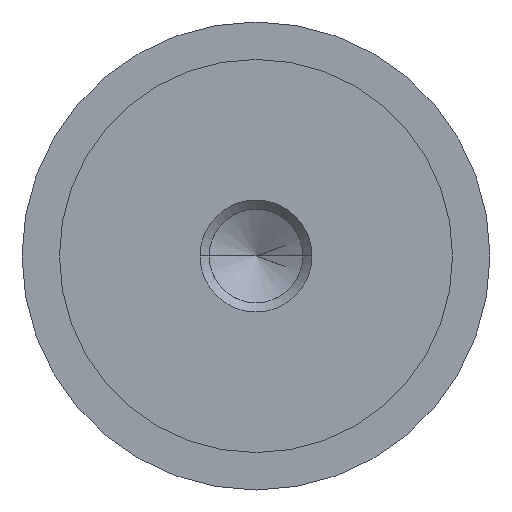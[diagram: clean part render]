
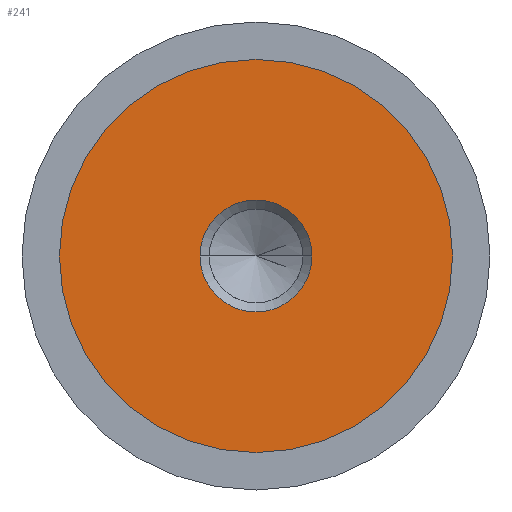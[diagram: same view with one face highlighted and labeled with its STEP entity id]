
A CAD part, left-side view. The second image highlights one B-rep face of the part: STEP entity #241.
In plain terms, the highlighted planar face has unit normal (-1, 0, 0).
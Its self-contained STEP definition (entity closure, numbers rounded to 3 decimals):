
#2 = AXIS2_PLACEMENT_3D ( 'NONE', #133, #615, #196 ) ;
#10 = VERTEX_POINT ( 'NONE', #511 ) ;
#41 = CARTESIAN_POINT ( 'NONE',  ( -9.99, 0., 0. ) ) ;
#91 = EDGE_CURVE ( 'NONE', #371, #246, #212, .T. ) ;
#108 = DIRECTION ( 'NONE',  ( 0., 0., 1. ) ) ;
#128 = CARTESIAN_POINT ( 'NONE',  ( -9.99, 0., 10.5 ) ) ;
#133 = CARTESIAN_POINT ( 'NONE',  ( -9.99, 0., 0. ) ) ;
#135 = FACE_BOUND ( 'NONE', #523, .T. ) ;
#196 = DIRECTION ( 'NONE',  ( 0., 0., -1. ) ) ;
#212 = CIRCLE ( 'NONE', #312, 10.5 ) ;
#223 = CIRCLE ( 'NONE', #659, 2.99 ) ;
#227 = EDGE_CURVE ( 'NONE', #362, #10, #409, .T. ) ;
#232 = CARTESIAN_POINT ( 'NONE',  ( -9.99, -2.99, 0. ) ) ;
#241 = ADVANCED_FACE ( 'NONE', ( #135, #566 ), #376, .F. ) ;
#246 = VERTEX_POINT ( 'NONE', #128 ) ;
#252 = ORIENTED_EDGE ( 'NONE', *, *, #91, .T. ) ;
#303 = CARTESIAN_POINT ( 'NONE',  ( -9.99, 0., 0. ) ) ;
#312 = AXIS2_PLACEMENT_3D ( 'NONE', #303, #714, #108 ) ;
#317 = DIRECTION ( 'NONE',  ( 0., 0., -1. ) ) ;
#362 = VERTEX_POINT ( 'NONE', #232 ) ;
#371 = VERTEX_POINT ( 'NONE', #418 ) ;
#376 = PLANE ( 'NONE',  #747 ) ;
#390 = CIRCLE ( 'NONE', #475, 10.5 ) ;
#409 = CIRCLE ( 'NONE', #2, 2.99 ) ;
#418 = CARTESIAN_POINT ( 'NONE',  ( -9.99, 0., -10.5 ) ) ;
#436 = CARTESIAN_POINT ( 'NONE',  ( -9.99, 10.5, 0. ) ) ;
#473 = EDGE_CURVE ( 'NONE', #246, #371, #390, .T. ) ;
#475 = AXIS2_PLACEMENT_3D ( 'NONE', #774, #486, #604 ) ;
#484 = DIRECTION ( 'NONE',  ( 1., 0., 0. ) ) ;
#486 = DIRECTION ( 'NONE',  ( -1., 0., 0. ) ) ;
#511 = CARTESIAN_POINT ( 'NONE',  ( -9.99, 2.99, 0. ) ) ;
#523 = EDGE_LOOP ( 'NONE', ( #749, #730 ) ) ;
#557 = ORIENTED_EDGE ( 'NONE', *, *, #473, .T. ) ;
#566 = FACE_OUTER_BOUND ( 'NONE', #631, .T. ) ;
#604 = DIRECTION ( 'NONE',  ( 0., 0., 1. ) ) ;
#615 = DIRECTION ( 'NONE',  ( 1., 0., 0. ) ) ;
#631 = EDGE_LOOP ( 'NONE', ( #557, #252 ) ) ;
#647 = DIRECTION ( 'NONE',  ( 1., 0., 0. ) ) ;
#659 = AXIS2_PLACEMENT_3D ( 'NONE', #41, #647, #662 ) ;
#662 = DIRECTION ( 'NONE',  ( 0., 0., -1. ) ) ;
#714 = DIRECTION ( 'NONE',  ( -1., 0., 0. ) ) ;
#730 = ORIENTED_EDGE ( 'NONE', *, *, #743, .T. ) ;
#743 = EDGE_CURVE ( 'NONE', #10, #362, #223, .T. ) ;
#747 = AXIS2_PLACEMENT_3D ( 'NONE', #436, #484, #317 ) ;
#749 = ORIENTED_EDGE ( 'NONE', *, *, #227, .T. ) ;
#774 = CARTESIAN_POINT ( 'NONE',  ( -9.99, 0., 0. ) ) ;
